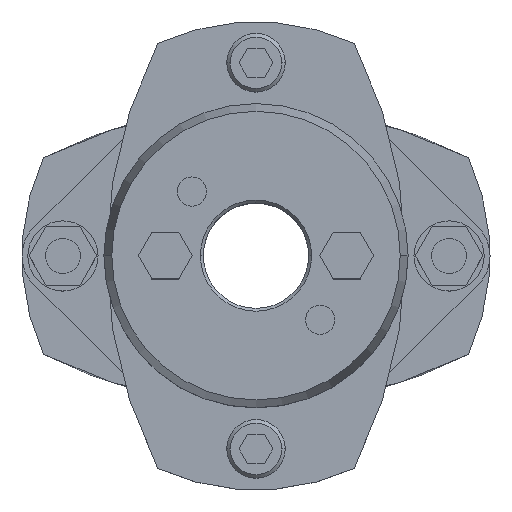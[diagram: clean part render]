
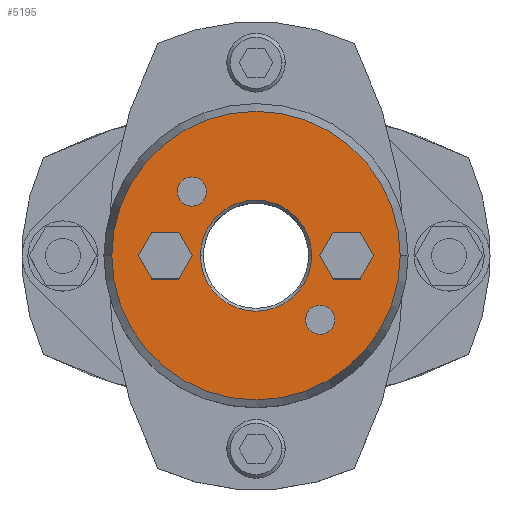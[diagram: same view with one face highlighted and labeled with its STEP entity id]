
A CAD part, top view. The second image highlights one B-rep face of the part: STEP entity #5195.
In plain terms, the highlighted planar face has unit normal (0, 0, 1).
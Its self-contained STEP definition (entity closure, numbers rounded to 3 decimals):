
#857=CARTESIAN_POINT('',(-9.5,0.,35.875));
#858=VERTEX_POINT('',#857);
#874=CARTESIAN_POINT('',(9.5,0.,35.875));
#875=VERTEX_POINT('',#874);
#882=CARTESIAN_POINT('',(0.,0.,35.875));
#883=DIRECTION('',(0.0,0.0,1.0));
#884=DIRECTION('',(-1.0,0.0,0.0));
#885=AXIS2_PLACEMENT_3D('',#882,#883,#884);
#886=CIRCLE('',#885,9.5);
#887=EDGE_CURVE('',#875,#858,#886,.T.);
#1045=CARTESIAN_POINT('',(24.66,0.,35.875));
#1046=VERTEX_POINT('',#1045);
#1053=CARTESIAN_POINT('',(-24.66,0.,35.875));
#1054=VERTEX_POINT('',#1053);
#1055=CARTESIAN_POINT('',(0.,0.,35.875));
#1056=DIRECTION('',(0.0,0.0,-1.0));
#1057=DIRECTION('',(1.0,0.0,0.0));
#1058=AXIS2_PLACEMENT_3D('',#1055,#1056,#1057);
#1059=CIRCLE('',#1058,24.66);
#1060=EDGE_CURVE('',#1046,#1054,#1059,.T.);
#1155=CARTESIAN_POINT('',(-13.46,10.96,35.875));
#1156=VERTEX_POINT('',#1155);
#1172=CARTESIAN_POINT('',(-8.46,10.96,35.875));
#1173=VERTEX_POINT('',#1172);
#1180=CARTESIAN_POINT('',(-10.96,10.96,35.875));
#1181=DIRECTION('',(0.0,0.0,-1.0));
#1182=DIRECTION('',(-1.0,0.0,0.0));
#1183=AXIS2_PLACEMENT_3D('',#1180,#1181,#1182);
#1184=CIRCLE('',#1183,2.5);
#1185=EDGE_CURVE('',#1156,#1173,#1184,.T.);
#1197=CARTESIAN_POINT('',(8.46,-10.96,35.875));
#1198=VERTEX_POINT('',#1197);
#1214=CARTESIAN_POINT('',(13.46,-10.96,35.875));
#1215=VERTEX_POINT('',#1214);
#1222=CARTESIAN_POINT('',(10.96,-10.96,35.875));
#1223=DIRECTION('',(0.0,0.0,-1.0));
#1224=DIRECTION('',(-1.0,0.0,0.0));
#1225=AXIS2_PLACEMENT_3D('',#1222,#1223,#1224);
#1226=CIRCLE('',#1225,2.5);
#1227=EDGE_CURVE('',#1198,#1215,#1226,.T.);
#4439=CARTESIAN_POINT('',(10.881,0.,35.875));
#4440=VERTEX_POINT('',#4439);
#4447=CARTESIAN_POINT('',(13.191,-4.,35.875));
#4448=VERTEX_POINT('',#4447);
#4449=CARTESIAN_POINT('',(13.191,-4.,35.875));
#4450=DIRECTION('',(-0.5,0.866,0.0));
#4451=VECTOR('',#4450,4.619);
#4452=LINE('',#4449,#4451);
#4453=EDGE_CURVE('',#4448,#4440,#4452,.T.);
#4477=CARTESIAN_POINT('',(13.191,4.,35.875));
#4478=VERTEX_POINT('',#4477);
#4485=CARTESIAN_POINT('',(10.881,0.,35.875));
#4486=DIRECTION('',(0.5,0.866,0.0));
#4487=VECTOR('',#4486,4.619);
#4488=LINE('',#4485,#4487);
#4489=EDGE_CURVE('',#4440,#4478,#4488,.T.);
#4508=CARTESIAN_POINT('',(17.809,4.,35.875));
#4509=VERTEX_POINT('',#4508);
#4516=CARTESIAN_POINT('',(13.191,4.,35.875));
#4517=DIRECTION('',(1.0,0.0,0.0));
#4518=VECTOR('',#4517,4.619);
#4519=LINE('',#4516,#4518);
#4520=EDGE_CURVE('',#4478,#4509,#4519,.T.);
#4539=CARTESIAN_POINT('',(20.119,0.,35.875));
#4540=VERTEX_POINT('',#4539);
#4547=CARTESIAN_POINT('',(17.809,4.,35.875));
#4548=DIRECTION('',(0.5,-0.866,0.0));
#4549=VECTOR('',#4548,4.619);
#4550=LINE('',#4547,#4549);
#4551=EDGE_CURVE('',#4509,#4540,#4550,.T.);
#4570=CARTESIAN_POINT('',(17.809,-4.,35.875));
#4571=VERTEX_POINT('',#4570);
#4578=CARTESIAN_POINT('',(20.119,0.,35.875));
#4579=DIRECTION('',(-0.5,-0.866,0.0));
#4580=VECTOR('',#4579,4.619);
#4581=LINE('',#4578,#4580);
#4582=EDGE_CURVE('',#4540,#4571,#4581,.T.);
#4600=CARTESIAN_POINT('',(17.809,-4.,35.875));
#4601=DIRECTION('',(-1.0,0.0,0.0));
#4602=VECTOR('',#4601,4.619);
#4603=LINE('',#4600,#4602);
#4604=EDGE_CURVE('',#4571,#4448,#4603,.T.);
#4639=CARTESIAN_POINT('',(-20.119,0.,35.875));
#4640=VERTEX_POINT('',#4639);
#4647=CARTESIAN_POINT('',(-17.809,-4.,35.875));
#4648=VERTEX_POINT('',#4647);
#4649=CARTESIAN_POINT('',(-17.809,-4.,35.875));
#4650=DIRECTION('',(-0.5,0.866,0.0));
#4651=VECTOR('',#4650,4.619);
#4652=LINE('',#4649,#4651);
#4653=EDGE_CURVE('',#4648,#4640,#4652,.T.);
#4677=CARTESIAN_POINT('',(-17.809,4.,35.875));
#4678=VERTEX_POINT('',#4677);
#4685=CARTESIAN_POINT('',(-20.119,0.,35.875));
#4686=DIRECTION('',(0.5,0.866,0.0));
#4687=VECTOR('',#4686,4.619);
#4688=LINE('',#4685,#4687);
#4689=EDGE_CURVE('',#4640,#4678,#4688,.T.);
#4708=CARTESIAN_POINT('',(-13.191,4.,35.875));
#4709=VERTEX_POINT('',#4708);
#4716=CARTESIAN_POINT('',(-17.809,4.,35.875));
#4717=DIRECTION('',(1.0,0.0,0.0));
#4718=VECTOR('',#4717,4.619);
#4719=LINE('',#4716,#4718);
#4720=EDGE_CURVE('',#4678,#4709,#4719,.T.);
#4739=CARTESIAN_POINT('',(-10.881,0.,35.875));
#4740=VERTEX_POINT('',#4739);
#4747=CARTESIAN_POINT('',(-13.191,4.,35.875));
#4748=DIRECTION('',(0.5,-0.866,0.0));
#4749=VECTOR('',#4748,4.619);
#4750=LINE('',#4747,#4749);
#4751=EDGE_CURVE('',#4709,#4740,#4750,.T.);
#4770=CARTESIAN_POINT('',(-13.191,-4.,35.875));
#4771=VERTEX_POINT('',#4770);
#4778=CARTESIAN_POINT('',(-10.881,0.,35.875));
#4779=DIRECTION('',(-0.5,-0.866,0.0));
#4780=VECTOR('',#4779,4.619);
#4781=LINE('',#4778,#4780);
#4782=EDGE_CURVE('',#4740,#4771,#4781,.T.);
#4800=CARTESIAN_POINT('',(-13.191,-4.,35.875));
#4801=DIRECTION('',(-1.0,0.0,0.0));
#4802=VECTOR('',#4801,4.619);
#4803=LINE('',#4800,#4802);
#4804=EDGE_CURVE('',#4771,#4648,#4803,.T.);
#4830=CARTESIAN_POINT('',(10.96,-10.96,35.875));
#4831=DIRECTION('',(0.0,0.0,-1.0));
#4832=DIRECTION('',(-1.0,0.0,0.0));
#4833=AXIS2_PLACEMENT_3D('',#4830,#4831,#4832);
#4834=CIRCLE('',#4833,2.5);
#4835=EDGE_CURVE('',#1215,#1198,#4834,.T.);
#4864=CARTESIAN_POINT('',(-10.96,10.96,35.875));
#4865=DIRECTION('',(0.0,0.0,-1.0));
#4866=DIRECTION('',(-1.0,0.0,0.0));
#4867=AXIS2_PLACEMENT_3D('',#4864,#4865,#4866);
#4868=CIRCLE('',#4867,2.5);
#4869=EDGE_CURVE('',#1173,#1156,#4868,.T.);
#5142=CARTESIAN_POINT('',(0.,0.,35.875));
#5143=DIRECTION('',(0.0,0.0,-1.0));
#5144=DIRECTION('',(1.0,0.0,0.0));
#5145=AXIS2_PLACEMENT_3D('',#5142,#5143,#5144);
#5146=CIRCLE('',#5145,24.66);
#5147=EDGE_CURVE('',#1054,#1046,#5146,.T.);
#5152=CARTESIAN_POINT('',(-2.364,0.,35.875));
#5153=DIRECTION('',(0.0,0.0,1.0));
#5154=DIRECTION('',(-1.0,0.0,0.0));
#5155=AXIS2_PLACEMENT_3D('',#5152,#5153,#5154);
#5156=PLANE('',#5155);
#5157=ORIENTED_EDGE('',*,*,#5147,.F.);
#5158=ORIENTED_EDGE('',*,*,#1060,.F.);
#5159=EDGE_LOOP('',(#5157,#5158));
#5160=FACE_OUTER_BOUND('',#5159,.T.);
#5161=ORIENTED_EDGE('',*,*,#4453,.T.);
#5162=ORIENTED_EDGE('',*,*,#4489,.T.);
#5163=ORIENTED_EDGE('',*,*,#4520,.T.);
#5164=ORIENTED_EDGE('',*,*,#4551,.T.);
#5165=ORIENTED_EDGE('',*,*,#4582,.T.);
#5166=ORIENTED_EDGE('',*,*,#4604,.T.);
#5167=EDGE_LOOP('',(#5161,#5162,#5163,#5164,#5165,#5166));
#5168=FACE_BOUND('',#5167,.T.);
#5169=ORIENTED_EDGE('',*,*,#4653,.T.);
#5170=ORIENTED_EDGE('',*,*,#4689,.T.);
#5171=ORIENTED_EDGE('',*,*,#4720,.T.);
#5172=ORIENTED_EDGE('',*,*,#4751,.T.);
#5173=ORIENTED_EDGE('',*,*,#4782,.T.);
#5174=ORIENTED_EDGE('',*,*,#4804,.T.);
#5175=EDGE_LOOP('',(#5169,#5170,#5171,#5172,#5173,#5174));
#5176=FACE_BOUND('',#5175,.T.);
#5177=ORIENTED_EDGE('',*,*,#1227,.T.);
#5178=ORIENTED_EDGE('',*,*,#4835,.T.);
#5179=EDGE_LOOP('',(#5177,#5178));
#5180=FACE_BOUND('',#5179,.T.);
#5181=ORIENTED_EDGE('',*,*,#1185,.T.);
#5182=ORIENTED_EDGE('',*,*,#4869,.T.);
#5183=EDGE_LOOP('',(#5181,#5182));
#5184=FACE_BOUND('',#5183,.T.);
#5185=ORIENTED_EDGE('',*,*,#887,.F.);
#5186=CARTESIAN_POINT('',(0.,0.,35.875));
#5187=DIRECTION('',(0.0,0.0,1.0));
#5188=DIRECTION('',(-1.0,0.0,0.0));
#5189=AXIS2_PLACEMENT_3D('',#5186,#5187,#5188);
#5190=CIRCLE('',#5189,9.5);
#5191=EDGE_CURVE('',#858,#875,#5190,.T.);
#5192=ORIENTED_EDGE('',*,*,#5191,.F.);
#5193=EDGE_LOOP('',(#5185,#5192));
#5194=FACE_BOUND('',#5193,.T.);
#5195=ADVANCED_FACE('',(#5160,#5168,#5176,#5180,#5184,#5194),#5156,.T.);
